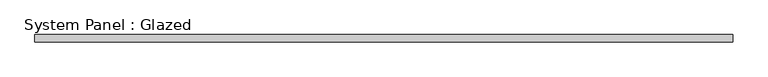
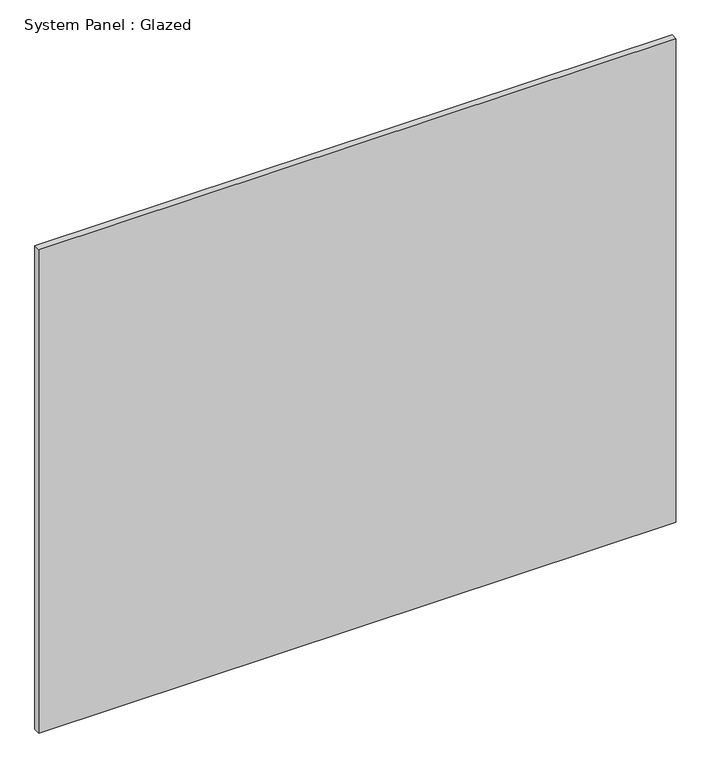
"""IFC4 building model written with IfcOpenShell, lengths in millimetres: plate geometry, System Panel : Glazed."""

from ifc_helpers import new_model, si_unit, origin, origin_with_axes, place, context, project, spatial, polyline, outline, extrude, source, transform, mapped, element, save


def system_panel_glazed_fbe8b064(model_context):
    return source(origin(), model_context, "Body", "SweptSolid", [
        extrude(outline(polyline([(1235.2309405, 19.05), (-1235.2309405, 19.05), (-1235.2309405, 44.45), (1235.2309405, 44.45), (1235.2309405, 19.05)])), origin_with_axes(), (0.0, 0.0, 1.0), 1981.2),
    ])


if __name__ == "__main__":
    model = new_model("IFC4")
    model_context = context("Model", 3, world=origin())
    ifc_project = project(units=[si_unit("LENGTHUNIT", "METRE", prefix="MILLI")], contexts=[model_context])
    site = spatial("IfcSite", under=ifc_project)
    building = spatial("IfcBuilding", under=site)
    placement = place(None, origin())
    system_panel_glazed_shape = system_panel_glazed_fbe8b064(model_context)
    element("IfcPlate", 1, ObjectType="System Panel : Glazed", at=placement, inside=building, context=model_context, shape_type="MappedRepresentation", body=[
        mapped(system_panel_glazed_shape, transform((0.0, 0.0, 0.0), x_axis=(1.0, 0.0, 0.0), y_axis=(0.0, 1.0, 0.0), z_axis=(0.0, 0.0, 1.0))),
    ])
    save(model, "model.ifc")
